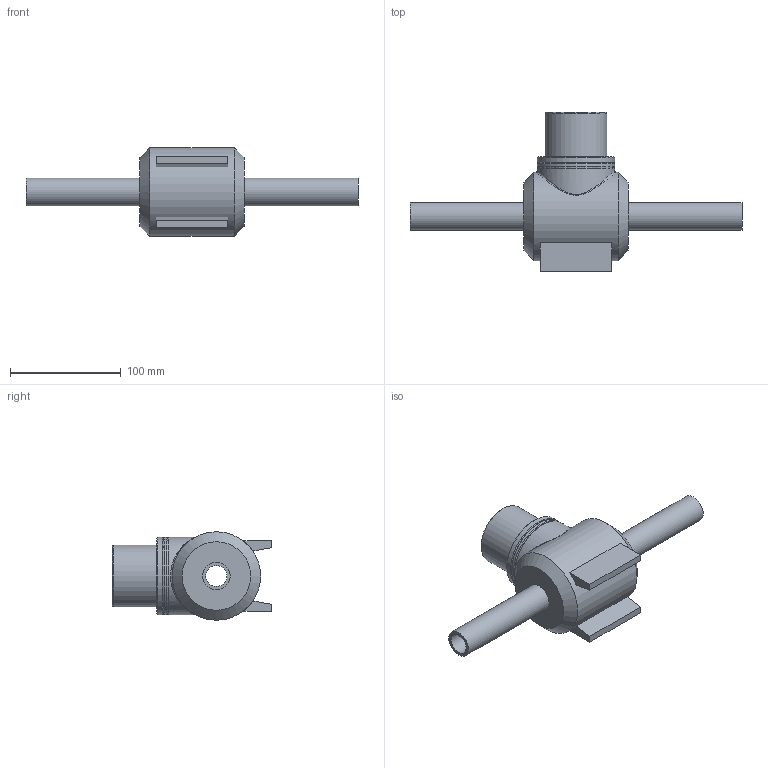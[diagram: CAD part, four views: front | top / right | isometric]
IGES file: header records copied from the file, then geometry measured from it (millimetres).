
Global section: file name: 436207025.ipt; native system: Autodesk Inventor 2015; preprocessor: unknown; author: Кирилл,,11,0; organization: 20170828.110610; date: 20171001.144230; units: millimetre
Bounding box: 300 x 144 x 80 mm (x, y, z)
Volume: 642995.8 mm3; surface area: 83414.8 mm2
Topology: 1 solids, 1 shells, 33 faces, 81 edges, 54 vertices
Faces by surface type: plane 16, cylinder 7, cone 4, revolution 4, bspline 2
Full cylindrical faces by diameter (mm): 25 x2, 56 x1, 70 x3, 80 x1
